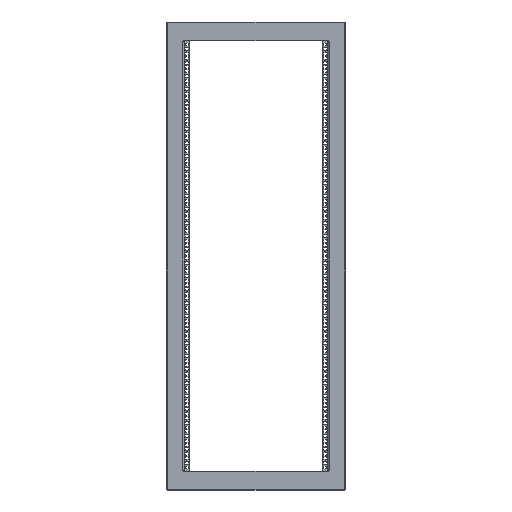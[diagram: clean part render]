
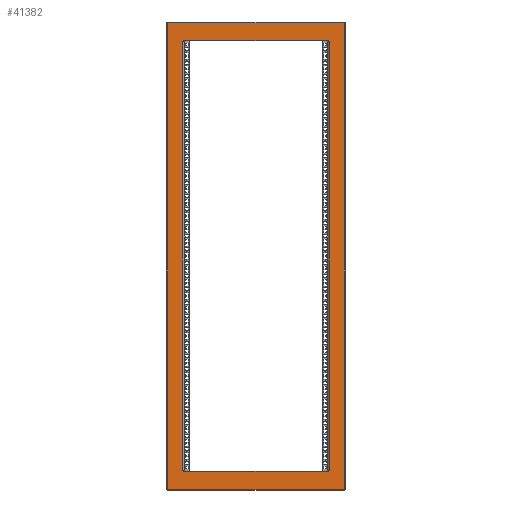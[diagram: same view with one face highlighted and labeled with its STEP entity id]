
A CAD part, top view. The second image highlights one B-rep face of the part: STEP entity #41382.
In plain terms, the highlighted planar face has unit normal (0, 0, 1).
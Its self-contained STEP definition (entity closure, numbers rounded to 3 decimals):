
#550 = VECTOR ( 'NONE', #601, 1000. ) ;
#601 = DIRECTION ( 'NONE',  ( -1., 0., 0. ) ) ;
#976 = EDGE_CURVE ( 'NONE', #8315, #26684, #19992, .T. ) ;
#1190 = EDGE_CURVE ( 'NONE', #26684, #19795, #46251, .T. ) ;
#1255 = VECTOR ( 'NONE', #32694, 1000. ) ;
#1502 = ORIENTED_EDGE ( 'NONE', *, *, #12948, .T. ) ;
#1507 = VERTEX_POINT ( 'NONE', #42021 ) ;
#1691 = DIRECTION ( 'NONE',  ( 0., 1., 0. ) ) ;
#1958 = EDGE_CURVE ( 'NONE', #10368, #37909, #39846, .T. ) ;
#2490 = VERTEX_POINT ( 'NONE', #7393 ) ;
#3311 = VECTOR ( 'NONE', #36837, 1000. ) ;
#3763 = EDGE_LOOP ( 'NONE', ( #12919, #40133, #16228, #23161, #42328, #23301, #19553, #28898, #5722, #24549, #36150, #42090 ) ) ;
#3998 = CARTESIAN_POINT ( 'NONE',  ( 241., -753.056, 0. ) ) ;
#4068 = AXIS2_PLACEMENT_3D ( 'NONE', #30902, #27384, #5546 ) ;
#4100 = VERTEX_POINT ( 'NONE', #39357 ) ;
#4654 = DIRECTION ( 'NONE',  ( 0., 1., 0. ) ) ;
#5546 = DIRECTION ( 'NONE',  ( -1., 0., 0. ) ) ;
#5722 = ORIENTED_EDGE ( 'NONE', *, *, #22002, .F. ) ;
#5971 = VECTOR ( 'NONE', #4654, 1000. ) ;
#6314 = CARTESIAN_POINT ( 'NONE',  ( 244., -714.5, 0. ) ) ;
#6564 = EDGE_CURVE ( 'NONE', #27569, #37474, #19626, .T. ) ;
#6925 = CARTESIAN_POINT ( 'NONE',  ( -294.5, -777., 0. ) ) ;
#7393 = CARTESIAN_POINT ( 'NONE',  ( 294.5, 777., 0. ) ) ;
#7793 = DIRECTION ( 'NONE',  ( 0., -1., 0. ) ) ;
#8006 = EDGE_CURVE ( 'NONE', #44412, #31266, #37133, .T. ) ;
#8097 = VECTOR ( 'NONE', #35691, 1000. ) ;
#8315 = VERTEX_POINT ( 'NONE', #14179 ) ;
#8774 = DIRECTION ( 'NONE',  ( 1., 0., 0. ) ) ;
#9380 = DIRECTION ( 'NONE',  ( -1., 0., 0. ) ) ;
#9414 = VERTEX_POINT ( 'NONE', #38914 ) ;
#10072 = VECTOR ( 'NONE', #26156, 1000. ) ;
#10368 = VERTEX_POINT ( 'NONE', #30929 ) ;
#10652 = VERTEX_POINT ( 'NONE', #47392 ) ;
#10733 = EDGE_CURVE ( 'NONE', #2490, #8315, #29636, .T. ) ;
#10914 = LINE ( 'NONE', #36223, #1255 ) ;
#11681 = EDGE_CURVE ( 'NONE', #37909, #9414, #17584, .T. ) ;
#12109 = CARTESIAN_POINT ( 'NONE',  ( 294.5, -777., 0. ) ) ;
#12890 = CARTESIAN_POINT ( 'NONE',  ( -243., 717., 0. ) ) ;
#12919 = ORIENTED_EDGE ( 'NONE', *, *, #25607, .F. ) ;
#12948 = EDGE_CURVE ( 'NONE', #19795, #2490, #32275, .T. ) ;
#13117 = CARTESIAN_POINT ( 'NONE',  ( 297.5, -777., 0. ) ) ;
#13879 = DIRECTION ( 'NONE',  ( 0., 1., 0. ) ) ;
#13933 = EDGE_CURVE ( 'NONE', #27569, #9414, #10914, .T. ) ;
#14179 = CARTESIAN_POINT ( 'NONE',  ( -294.5, 777., 0. ) ) ;
#15378 = CARTESIAN_POINT ( 'NONE',  ( -294.5, -780., 0. ) ) ;
#15499 = VECTOR ( 'NONE', #25992, 1000. ) ;
#15567 = CARTESIAN_POINT ( 'NONE',  ( -241., -714.5, 0. ) ) ;
#15611 = CARTESIAN_POINT ( 'NONE',  ( 241., 717., 0. ) ) ;
#15674 = LINE ( 'NONE', #19180, #5971 ) ;
#16228 = ORIENTED_EDGE ( 'NONE', *, *, #13933, .T. ) ;
#16714 = CARTESIAN_POINT ( 'NONE',  ( 241., -714.5, 0. ) ) ;
#17584 = LINE ( 'NONE', #15567, #33545 ) ;
#18757 = DIRECTION ( 'NONE',  ( 1., 0., 0. ) ) ;
#18760 = CARTESIAN_POINT ( 'NONE',  ( -244., -714.5, 0. ) ) ;
#19180 = CARTESIAN_POINT ( 'NONE',  ( -241., -753.056, 0. ) ) ;
#19473 = CARTESIAN_POINT ( 'NONE',  ( -241., -717., 0. ) ) ;
#19553 = ORIENTED_EDGE ( 'NONE', *, *, #23308, .T. ) ;
#19626 = LINE ( 'NONE', #40613, #30437 ) ;
#19795 = VERTEX_POINT ( 'NONE', #12109 ) ;
#19992 = LINE ( 'NONE', #15378, #38224 ) ;
#20434 = VECTOR ( 'NONE', #13879, 1000. ) ;
#20806 = ORIENTED_EDGE ( 'NONE', *, *, #1190, .T. ) ;
#21583 = LINE ( 'NONE', #28410, #20434 ) ;
#22002 = EDGE_CURVE ( 'NONE', #4100, #29373, #21583, .T. ) ;
#22198 = EDGE_CURVE ( 'NONE', #10652, #31266, #41532, .T. ) ;
#22205 = EDGE_CURVE ( 'NONE', #4100, #10652, #39217, .T. ) ;
#22511 = CARTESIAN_POINT ( 'NONE',  ( 241., 714.5, 0. ) ) ;
#23161 = ORIENTED_EDGE ( 'NONE', *, *, #11681, .F. ) ;
#23301 = ORIENTED_EDGE ( 'NONE', *, *, #47139, .T. ) ;
#23308 = EDGE_CURVE ( 'NONE', #45623, #1507, #15674, .T. ) ;
#23521 = CARTESIAN_POINT ( 'NONE',  ( 294.5, 780., 0. ) ) ;
#23529 = EDGE_CURVE ( 'NONE', #29373, #1507, #35657, .T. ) ;
#23582 = FACE_OUTER_BOUND ( 'NONE', #26290, .T. ) ;
#23730 = PLANE ( 'NONE',  #4068 ) ;
#24549 = ORIENTED_EDGE ( 'NONE', *, *, #22205, .T. ) ;
#25223 = LINE ( 'NONE', #3998, #15499 ) ;
#25607 = EDGE_CURVE ( 'NONE', #37474, #44412, #25223, .T. ) ;
#25951 = CARTESIAN_POINT ( 'NONE',  ( -244., 721.243, 0. ) ) ;
#25992 = DIRECTION ( 'NONE',  ( 0., 1., 0. ) ) ;
#26156 = DIRECTION ( 'NONE',  ( 1., 0., 0. ) ) ;
#26290 = EDGE_LOOP ( 'NONE', ( #1502, #46659, #45855, #20806 ) ) ;
#26537 = DIRECTION ( 'NONE',  ( 0., -1., 0. ) ) ;
#26684 = VERTEX_POINT ( 'NONE', #6925 ) ;
#27384 = DIRECTION ( 'NONE',  ( 0., 0., -1. ) ) ;
#27569 = VERTEX_POINT ( 'NONE', #19473 ) ;
#27797 = DIRECTION ( 'NONE',  ( 1., 0., 0. ) ) ;
#28410 = CARTESIAN_POINT ( 'NONE',  ( 241., -753.056, 0. ) ) ;
#28551 = VECTOR ( 'NONE', #8774, 1000. ) ;
#28898 = ORIENTED_EDGE ( 'NONE', *, *, #23529, .F. ) ;
#29373 = VERTEX_POINT ( 'NONE', #15611 ) ;
#29636 = LINE ( 'NONE', #44344, #550 ) ;
#30072 = DIRECTION ( 'NONE',  ( 1., 0., 0. ) ) ;
#30437 = VECTOR ( 'NONE', #18757, 1000. ) ;
#30624 = VECTOR ( 'NONE', #7793, 1000. ) ;
#30641 = CARTESIAN_POINT ( 'NONE',  ( 241., -714.5, 0. ) ) ;
#30902 = CARTESIAN_POINT ( 'NONE',  ( 0., 0., 0. ) ) ;
#30929 = CARTESIAN_POINT ( 'NONE',  ( -244., 714.5, 0. ) ) ;
#31266 = VERTEX_POINT ( 'NONE', #6314 ) ;
#32021 = CARTESIAN_POINT ( 'NONE',  ( -241., 714.5, 0. ) ) ;
#32275 = LINE ( 'NONE', #23521, #44310 ) ;
#32694 = DIRECTION ( 'NONE',  ( 0., 1., 0. ) ) ;
#33340 = CARTESIAN_POINT ( 'NONE',  ( 244., 721.243, 0. ) ) ;
#33545 = VECTOR ( 'NONE', #30072, 1000. ) ;
#35657 = LINE ( 'NONE', #12890, #44243 ) ;
#35691 = DIRECTION ( 'NONE',  ( 1., 0., 0. ) ) ;
#36150 = ORIENTED_EDGE ( 'NONE', *, *, #22198, .T. ) ;
#36223 = CARTESIAN_POINT ( 'NONE',  ( -241., -753.056, 0. ) ) ;
#36506 = VECTOR ( 'NONE', #27797, 1000. ) ;
#36837 = DIRECTION ( 'NONE',  ( 0., -1., 0. ) ) ;
#36940 = CARTESIAN_POINT ( 'NONE',  ( -241., 714.5, 0. ) ) ;
#37133 = LINE ( 'NONE', #30641, #28551 ) ;
#37235 = LINE ( 'NONE', #32021, #8097 ) ;
#37474 = VERTEX_POINT ( 'NONE', #37796 ) ;
#37796 = CARTESIAN_POINT ( 'NONE',  ( 241., -717., 0. ) ) ;
#37909 = VERTEX_POINT ( 'NONE', #18760 ) ;
#38224 = VECTOR ( 'NONE', #26537, 1000. ) ;
#38914 = CARTESIAN_POINT ( 'NONE',  ( -241., -714.5, 0. ) ) ;
#39217 = LINE ( 'NONE', #22511, #10072 ) ;
#39357 = CARTESIAN_POINT ( 'NONE',  ( 241., 714.5, 0. ) ) ;
#39846 = LINE ( 'NONE', #25951, #3311 ) ;
#40133 = ORIENTED_EDGE ( 'NONE', *, *, #6564, .F. ) ;
#40613 = CARTESIAN_POINT ( 'NONE',  ( 243., -717., 0. ) ) ;
#41382 = ADVANCED_FACE ( 'NONE', ( #43057, #23582 ), #23730, .F. ) ;
#41532 = LINE ( 'NONE', #33340, #30624 ) ;
#42021 = CARTESIAN_POINT ( 'NONE',  ( -241., 717., 0. ) ) ;
#42090 = ORIENTED_EDGE ( 'NONE', *, *, #8006, .F. ) ;
#42328 = ORIENTED_EDGE ( 'NONE', *, *, #1958, .F. ) ;
#43057 = FACE_BOUND ( 'NONE', #3763, .T. ) ;
#44243 = VECTOR ( 'NONE', #9380, 1000. ) ;
#44310 = VECTOR ( 'NONE', #1691, 1000. ) ;
#44344 = CARTESIAN_POINT ( 'NONE',  ( -297.5, 777., 0. ) ) ;
#44412 = VERTEX_POINT ( 'NONE', #16714 ) ;
#45623 = VERTEX_POINT ( 'NONE', #36940 ) ;
#45855 = ORIENTED_EDGE ( 'NONE', *, *, #976, .T. ) ;
#46251 = LINE ( 'NONE', #13117, #36506 ) ;
#46659 = ORIENTED_EDGE ( 'NONE', *, *, #10733, .T. ) ;
#47139 = EDGE_CURVE ( 'NONE', #10368, #45623, #37235, .T. ) ;
#47392 = CARTESIAN_POINT ( 'NONE',  ( 244., 714.5, 0. ) ) ;
